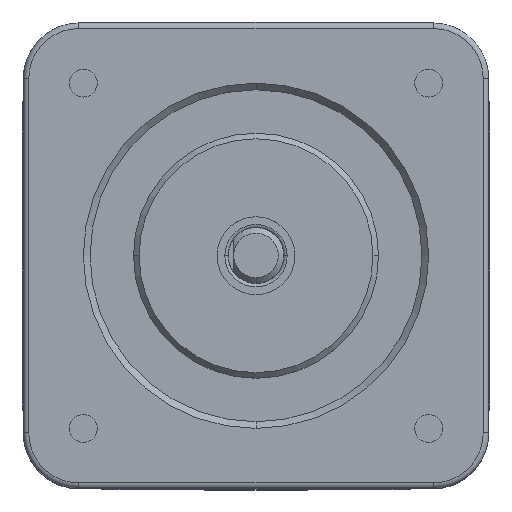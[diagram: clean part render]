
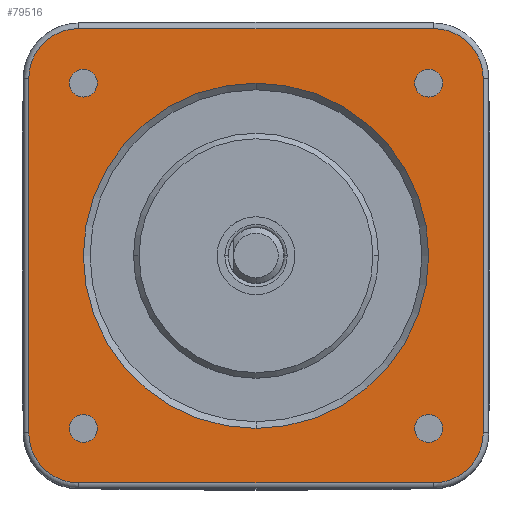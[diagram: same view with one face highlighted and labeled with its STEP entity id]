
A CAD part, top view. The second image highlights one B-rep face of the part: STEP entity #79516.
In plain terms, the highlighted planar face has unit normal (0, 0, 1).
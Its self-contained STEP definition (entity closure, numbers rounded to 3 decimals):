
#9152=CARTESIAN_POINT('',(-15.9,-15.9,-17.));
#9153=DIRECTION('',(0.,0.,1.));
#9154=DIRECTION('',(-1.,0.,0.));
#9155=AXIS2_PLACEMENT_3D('',#9152,#9153,#9154);
#9157=DIRECTION('',(0.,-1.,0.));
#9158=VECTOR('',#9157,31.8);
#9159=CARTESIAN_POINT('',(-20.4,15.9,-17.));
#9160=LINE('',#9159,#9158);
#9161=CARTESIAN_POINT('',(-15.9,15.9,-17.));
#9162=DIRECTION('',(0.,0.,1.));
#9163=DIRECTION('',(0.,1.,0.));
#9164=AXIS2_PLACEMENT_3D('',#9161,#9162,#9163);
#9166=DIRECTION('',(-1.,0.,0.));
#9167=VECTOR('',#9166,31.8);
#9168=CARTESIAN_POINT('',(15.9,20.4,-17.));
#9169=LINE('',#9168,#9167);
#9170=CARTESIAN_POINT('',(15.9,15.9,-17.));
#9171=DIRECTION('',(0.,0.,1.));
#9172=DIRECTION('',(1.,0.,0.));
#9173=AXIS2_PLACEMENT_3D('',#9170,#9171,#9172);
#9175=DIRECTION('',(0.,1.,0.));
#9176=VECTOR('',#9175,31.8);
#9177=CARTESIAN_POINT('',(20.4,-15.9,-17.));
#9178=LINE('',#9177,#9176);
#9179=CARTESIAN_POINT('',(15.9,-15.9,-17.));
#9180=DIRECTION('',(0.,0.,1.));
#9181=DIRECTION('',(0.,-1.,0.));
#9182=AXIS2_PLACEMENT_3D('',#9179,#9180,#9181);
#9184=DIRECTION('',(1.,0.,0.));
#9185=VECTOR('',#9184,31.8);
#9186=CARTESIAN_POINT('',(-15.9,-20.4,-17.));
#9187=LINE('',#9186,#9185);
#9188=CARTESIAN_POINT('',(0.,0.,-17.));
#9189=DIRECTION('',(0.,0.,-1.));
#9190=DIRECTION('',(0.,1.,0.));
#9191=AXIS2_PLACEMENT_3D('',#9188,#9189,#9190);
#9193=CARTESIAN_POINT('',(0.,0.,-17.));
#9194=DIRECTION('',(0.,0.,-1.));
#9195=DIRECTION('',(0.,-1.,0.));
#9196=AXIS2_PLACEMENT_3D('',#9193,#9194,#9195);
#9198=CARTESIAN_POINT('',(15.5,-15.5,-17.));
#9199=DIRECTION('',(0.,0.,1.));
#9200=DIRECTION('',(-1.,0.,0.));
#9201=AXIS2_PLACEMENT_3D('',#9198,#9199,#9200);
#9203=CARTESIAN_POINT('',(15.5,-15.5,-17.));
#9204=DIRECTION('',(0.,0.,1.));
#9205=DIRECTION('',(1.,0.,0.));
#9206=AXIS2_PLACEMENT_3D('',#9203,#9204,#9205);
#9208=CARTESIAN_POINT('',(-15.5,-15.5,-17.));
#9209=DIRECTION('',(0.,0.,1.));
#9210=DIRECTION('',(0.,1.,0.));
#9211=AXIS2_PLACEMENT_3D('',#9208,#9209,#9210);
#9213=CARTESIAN_POINT('',(-15.5,-15.5,-17.));
#9214=DIRECTION('',(0.,0.,1.));
#9215=DIRECTION('',(0.,-1.,0.));
#9216=AXIS2_PLACEMENT_3D('',#9213,#9214,#9215);
#9218=CARTESIAN_POINT('',(-15.5,15.5,-17.));
#9219=DIRECTION('',(0.,0.,1.));
#9220=DIRECTION('',(1.,0.,0.));
#9221=AXIS2_PLACEMENT_3D('',#9218,#9219,#9220);
#9223=CARTESIAN_POINT('',(-15.5,15.5,-17.));
#9224=DIRECTION('',(0.,0.,1.));
#9225=DIRECTION('',(-1.,0.,0.));
#9226=AXIS2_PLACEMENT_3D('',#9223,#9224,#9225);
#9228=CARTESIAN_POINT('',(15.5,15.5,-17.));
#9229=DIRECTION('',(0.,0.,1.));
#9230=DIRECTION('',(0.,-1.,0.));
#9231=AXIS2_PLACEMENT_3D('',#9228,#9229,#9230);
#9233=CARTESIAN_POINT('',(15.5,15.5,-17.));
#9234=DIRECTION('',(0.,0.,1.));
#9235=DIRECTION('',(0.,1.,0.));
#9236=AXIS2_PLACEMENT_3D('',#9233,#9234,#9235);
#61325=CARTESIAN_POINT('',(14.25,-15.5,-17.));
#61326=CARTESIAN_POINT('',(16.75,-15.5,-17.));
#61327=VERTEX_POINT('',#61325);
#61328=VERTEX_POINT('',#61326);
#61329=CARTESIAN_POINT('',(-15.5,-14.25,-17.));
#61330=CARTESIAN_POINT('',(-15.5,-16.75,-17.));
#61331=VERTEX_POINT('',#61329);
#61332=VERTEX_POINT('',#61330);
#61333=CARTESIAN_POINT('',(-14.25,15.5,-17.));
#61334=CARTESIAN_POINT('',(-16.75,15.5,-17.));
#61335=VERTEX_POINT('',#61333);
#61336=VERTEX_POINT('',#61334);
#61337=CARTESIAN_POINT('',(15.5,14.25,-17.));
#61338=CARTESIAN_POINT('',(15.5,16.75,-17.));
#61339=VERTEX_POINT('',#61337);
#61340=VERTEX_POINT('',#61338);
#61381=CARTESIAN_POINT('',(0.,15.5,-17.));
#61382=CARTESIAN_POINT('',(0.,-15.5,-17.));
#61383=VERTEX_POINT('',#61381);
#61384=VERTEX_POINT('',#61382);
#61505=CARTESIAN_POINT('',(-20.4,-15.9,-17.));
#61506=CARTESIAN_POINT('',(-15.9,-20.4,-17.));
#61507=VERTEX_POINT('',#61505);
#61508=VERTEX_POINT('',#61506);
#61513=CARTESIAN_POINT('',(15.9,-20.4,-17.));
#61514=VERTEX_POINT('',#61513);
#61517=CARTESIAN_POINT('',(20.4,-15.9,-17.));
#61518=VERTEX_POINT('',#61517);
#61521=CARTESIAN_POINT('',(20.4,15.9,-17.));
#61522=VERTEX_POINT('',#61521);
#61525=CARTESIAN_POINT('',(15.9,20.4,-17.));
#61526=VERTEX_POINT('',#61525);
#61529=CARTESIAN_POINT('',(-15.9,20.4,-17.));
#61530=VERTEX_POINT('',#61529);
#61533=CARTESIAN_POINT('',(-20.4,15.9,-17.));
#61534=VERTEX_POINT('',#61533);
#79464=CARTESIAN_POINT('',(0.,0.,-17.));
#79465=DIRECTION('',(0.,0.,-1.));
#79466=DIRECTION('',(1.,0.,0.));
#79467=AXIS2_PLACEMENT_3D('',#79464,#79465,#79466);
#79468=PLANE('',#79467);
#79469=ORIENTED_EDGE('',*,*,#79454,.F.);
#79471=ORIENTED_EDGE('',*,*,#79470,.F.);
#79473=ORIENTED_EDGE('',*,*,#79472,.F.);
#79475=ORIENTED_EDGE('',*,*,#79474,.F.);
#79477=ORIENTED_EDGE('',*,*,#79476,.F.);
#79479=ORIENTED_EDGE('',*,*,#79478,.F.);
#79481=ORIENTED_EDGE('',*,*,#79480,.F.);
#79483=ORIENTED_EDGE('',*,*,#79482,.F.);
#79484=EDGE_LOOP('',(#79469,#79471,#79473,#79475,#79477,#79479,#79481,#79483));
#79485=FACE_OUTER_BOUND('',#79484,.F.);
#79487=ORIENTED_EDGE('',*,*,#79486,.F.);
#79489=ORIENTED_EDGE('',*,*,#79488,.F.);
#79490=EDGE_LOOP('',(#79487,#79489));
#79491=FACE_BOUND('',#79490,.F.);
#79493=ORIENTED_EDGE('',*,*,#79492,.T.);
#79495=ORIENTED_EDGE('',*,*,#79494,.T.);
#79496=EDGE_LOOP('',(#79493,#79495));
#79497=FACE_BOUND('',#79496,.F.);
#79499=ORIENTED_EDGE('',*,*,#79498,.T.);
#79501=ORIENTED_EDGE('',*,*,#79500,.T.);
#79502=EDGE_LOOP('',(#79499,#79501));
#79503=FACE_BOUND('',#79502,.F.);
#79505=ORIENTED_EDGE('',*,*,#79504,.T.);
#79507=ORIENTED_EDGE('',*,*,#79506,.T.);
#79508=EDGE_LOOP('',(#79505,#79507));
#79509=FACE_BOUND('',#79508,.F.);
#79511=ORIENTED_EDGE('',*,*,#79510,.T.);
#79513=ORIENTED_EDGE('',*,*,#79512,.T.);
#79514=EDGE_LOOP('',(#79511,#79513));
#79515=FACE_BOUND('',#79514,.F.);
#79516=ADVANCED_FACE('',(#79485,#79491,#79497,#79503,#79509,#79515),#79468,.F.);
#9156=CIRCLE('',#9155,4.5);
#9165=CIRCLE('',#9164,4.5);
#9174=CIRCLE('',#9173,4.5);
#9183=CIRCLE('',#9182,4.5);
#9192=CIRCLE('',#9191,15.5);
#9197=CIRCLE('',#9196,15.5);
#9202=CIRCLE('',#9201,1.25);
#9207=CIRCLE('',#9206,1.25);
#9212=CIRCLE('',#9211,1.25);
#9217=CIRCLE('',#9216,1.25);
#9222=CIRCLE('',#9221,1.25);
#9227=CIRCLE('',#9226,1.25);
#9232=CIRCLE('',#9231,1.25);
#9237=CIRCLE('',#9236,1.25);
#79454=EDGE_CURVE('',#61507,#61508,#9156,.T.);
#79470=EDGE_CURVE('',#61534,#61507,#9160,.T.);
#79472=EDGE_CURVE('',#61530,#61534,#9165,.T.);
#79474=EDGE_CURVE('',#61526,#61530,#9169,.T.);
#79476=EDGE_CURVE('',#61522,#61526,#9174,.T.);
#79478=EDGE_CURVE('',#61518,#61522,#9178,.T.);
#79480=EDGE_CURVE('',#61514,#61518,#9183,.T.);
#79482=EDGE_CURVE('',#61508,#61514,#9187,.T.);
#79486=EDGE_CURVE('',#61383,#61384,#9192,.T.);
#79488=EDGE_CURVE('',#61384,#61383,#9197,.T.);
#79492=EDGE_CURVE('',#61327,#61328,#9202,.T.);
#79494=EDGE_CURVE('',#61328,#61327,#9207,.T.);
#79498=EDGE_CURVE('',#61331,#61332,#9212,.T.);
#79500=EDGE_CURVE('',#61332,#61331,#9217,.T.);
#79504=EDGE_CURVE('',#61335,#61336,#9222,.T.);
#79506=EDGE_CURVE('',#61336,#61335,#9227,.T.);
#79510=EDGE_CURVE('',#61339,#61340,#9232,.T.);
#79512=EDGE_CURVE('',#61340,#61339,#9237,.T.);
